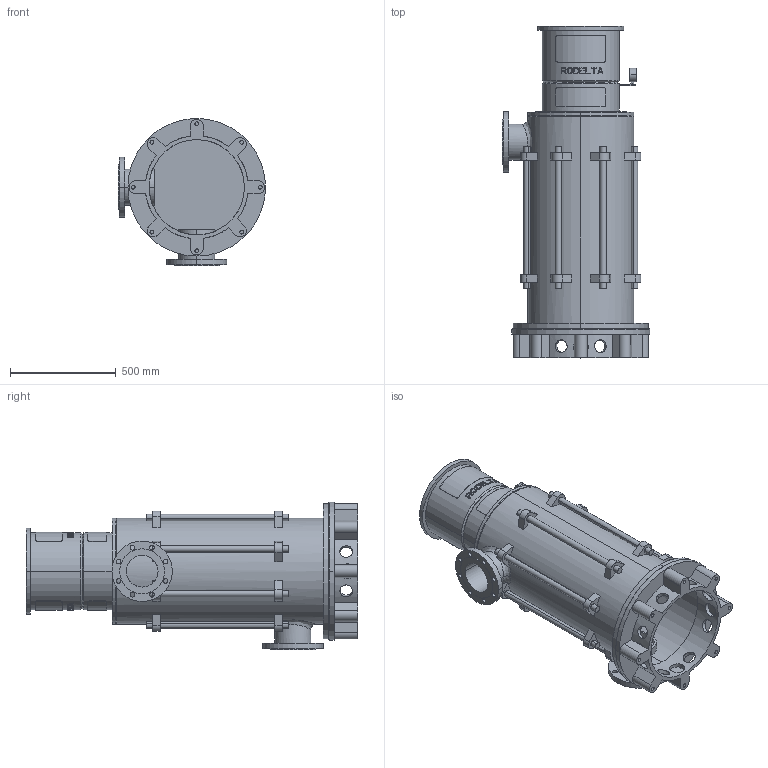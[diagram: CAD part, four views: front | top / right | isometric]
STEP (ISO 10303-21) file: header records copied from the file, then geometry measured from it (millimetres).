
FILE_DESCRIPTION((''),'2;1');
FILE_NAME('LS6_4TR_0GR_PN16_TOT_30KW','2025-10-23T14:53:54',('Lyritlocal'),(''),'CREO PARAMETRIC BY PTC INC, 2022014','CREO PARAMETRIC BY PTC INC, 2022014','');
FILE_SCHEMA(('CONFIG_CONTROL_DESIGN'));
Length unit declared in the file: millimetre
Products named in the file (1): LS6_4TR_0GR_PN16_TOT_30KW
Bounding box: 695 x 1567 x 695 mm (x, y, z)
Volume: 48716039.1 mm3; surface area: 6690009.5 mm2
Topology: 3 solids, 11 shells, 744 faces, 1953 edges, 1294 vertices
Faces by surface type: plane 438, cylinder 286, cone 12, bspline 8
Entity records: 25131 total; most frequent: CARTESIAN_POINT 6879, ORIENTED_EDGE 3874, DIRECTION 3587, EDGE_CURVE 1953, AXIS2_PLACEMENT_3D 1353, VERTEX_POINT 1294, EDGE_LOOP 907, VECTOR 881
